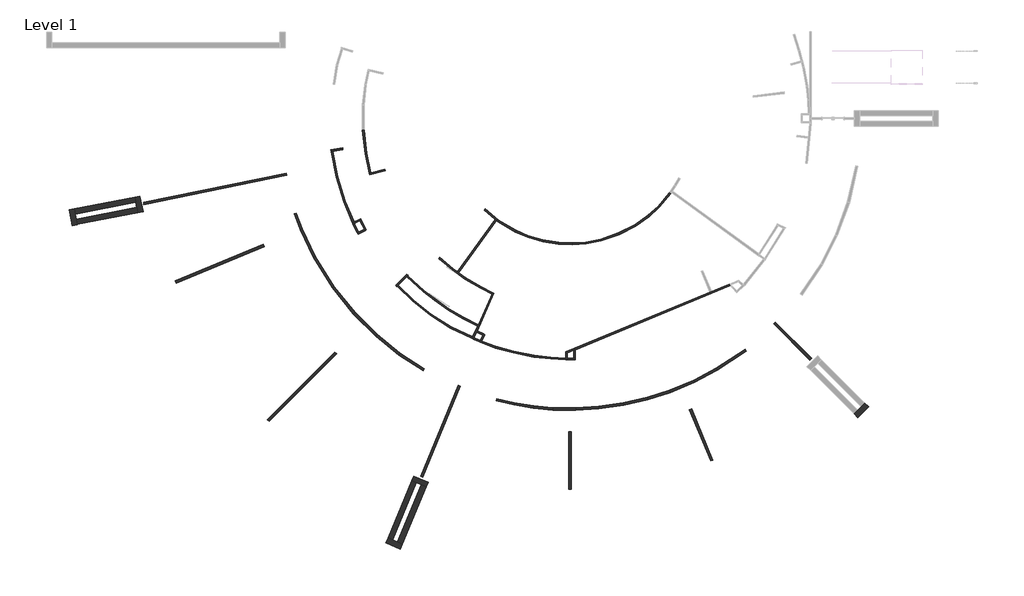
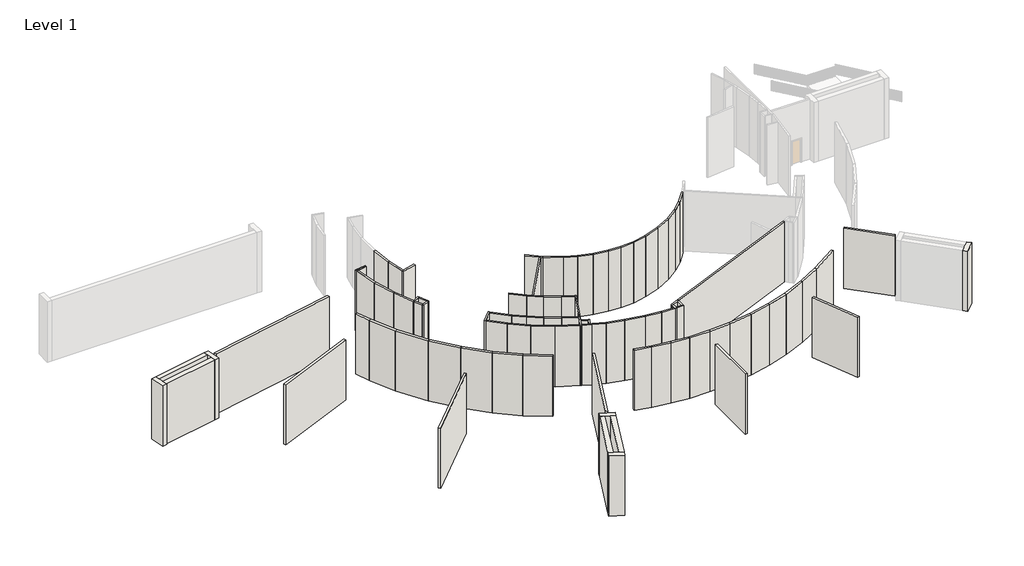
# One storey, part 1 of 10: 89 walls.
"""IFC4 building model written with IfcOpenShell, lengths in millimetres."""

from ifc_helpers import new_model, si_unit, frame, origin, origin_with_axes, place, context, project, spatial, polyline, outline, extrude, faceted_brep, element, save

model = new_model("IFC4")

# Units and contexts
model_context = context("Model", 3, world=origin())
ifc_project = project(units=[si_unit("LENGTHUNIT", "METRE", prefix="MILLI")], contexts=[model_context])

# Site, building, storey
site = spatial("IfcSite", under=ifc_project)
building = spatial("IfcBuilding", under=site)
storey = spatial("IfcBuildingStorey", under=building, Name="Level 1", Elevation=0.0)

# Walls
placement = place(None, origin())
element("IfcWall", 1, ObjectType="F1C", at=placement, inside=storey, context=model_context, shape_type="Brep", body=[
    faceted_brep([(16927.2755526, -15372.2410643, 0.0), (18231.6181951, -12442.6395235, 0.0), (18231.6181951, -12442.6395235, 5486.4), (16927.2755526, -15372.2410643, 5486.4), (17199.0159278, -14496.497038, 0.0), (17199.0159278, -14496.497038, 5486.4), (18084.8687609, -12506.8389985, 5486.4), (18135.3020428, -12393.5639927, 5486.4), (18135.3020428, -12393.5639927, 0.0), (18084.8687609, -12506.8389985, 0.0)], [[[0, 1, 2, 3]], [[4, 5, 6, 7, 8, 9]], [[1, 0, 4, 9, 8]], [[3, 2, 7, 6, 5]], [[2, 1, 8, 7]], [[0, 3, 5, 4]]]),
])
element("IfcWall", 2, ObjectType="F4A", at=placement, inside=storey, context=model_context, shape_type="Brep", body=[
    faceted_brep([(24452.123649, -16718.0880296, 0.0), (23802.0975002, -16986.9730223, 0.0), (23802.0975002, -16986.9730223, 5486.4), (24452.123649, -16718.0880296, 5486.4), (24499.4546309, -16832.5100939, 0.0), (24499.4546309, -16832.5100939, 5486.4), (24413.87664, -16867.9096505, 5486.4), (23925.9225002, -17069.7531386, 5486.4), (23802.0975002, -17120.9736692, 5486.4), (23802.0975002, -17120.9736692, 0.0), (23925.9225002, -17069.7531386, 0.0), (24413.87664, -16867.9096505, 0.0)], [[[0, 1, 2, 3]], [[4, 5, 6, 7, 8, 9, 10, 11]], [[1, 0, 4, 11, 10, 9]], [[3, 2, 8, 7, 6, 5]], [[0, 3, 5, 4]], [[2, 1, 9, 8]]]),
])
element("IfcWall", 3, ObjectType="F4A", at=placement, inside=storey, context=model_context, shape_type="Brep", body=[
    faceted_brep([(23802.0975002, -17120.9736692, 0.0), (23802.0975002, -17598.2755805, 0.0), (23802.0975002, -17598.2755805, 5486.4), (23802.0975002, -17120.9736692, 5486.4), (23925.9225002, -17069.7531386, 0.0), (23925.9225002, -17069.7531386, 5486.4), (23925.9225002, -17474.4505805, 5486.4), (23925.9225002, -17598.2755805, 5486.4), (23925.9225002, -17598.2755805, 0.0), (23925.9225002, -17474.4505805, 0.0)], [[[0, 1, 2, 3]], [[4, 5, 6, 7, 8, 9]], [[1, 0, 4, 9, 8]], [[3, 2, 7, 6, 5]], [[2, 1, 8, 7]], [[0, 3, 5, 4]]]),
])
element("IfcWall", 4, ObjectType="F4A", at=placement, inside=storey, context=model_context, shape_type="Brep", body=[
    faceted_brep([(23925.9225002, -17598.2755805, 0.0), (24537.70164, -17598.2755805, 0.0), (24537.70164, -17598.2755805, 5486.4), (23925.9225002, -17598.2755805, 5486.4), (23925.9225002, -17474.4505805, 0.0), (23925.9225002, -17474.4505805, 5486.4), (24413.87664, -17474.4505805, 5486.4), (24537.70164, -17474.4505805, 5486.4), (24537.70164, -17474.4505805, 0.0), (24413.87664, -17474.4505805, 0.0)], [[[0, 1, 2, 3]], [[4, 5, 6, 7, 8, 9]], [[1, 0, 4, 9, 8]], [[3, 2, 7, 6, 5]], [[2, 1, 8, 7]], [[0, 3, 5, 4]]]),
])
element("IfcWall", 5, ObjectType="F4A", at=placement, inside=storey, context=model_context, shape_type="SweptSolid", body=[
    extrude(outline(polyline([(24537.70164, -16825.278905), (24537.70164, -17474.4505805), (24413.87664, -17474.4505805), (24413.87664, -16867.9096505), (24499.4546309, -16832.5100939), (24502.4886682, -16839.8448416), (24537.70164, -16825.278905)])), origin_with_axes(), (0.0, 0.0, 1.0), 5486.4),
])
element("IfcWall", 6, ObjectType="F4A", at=placement, inside=storey, context=model_context, shape_type="Brep", body=[
    faceted_brep([(17300.0884445, -16144.1356241, 0.0), (17536.2164362, -15637.7575118, 0.0), (17536.2164362, -15637.7575118, 5486.4), (17300.0884445, -16144.1356241, 5486.4), (17187.1708594, -16093.2932558, 0.0), (17187.1708594, -16093.2932558, 5486.4), (17371.6621682, -15697.6503673, 5486.4), (17423.9928744, -15585.4268056, 5486.4), (17423.9928744, -15585.4268056, 0.0), (17371.6621682, -15697.6503673, 0.0)], [[[0, 1, 2, 3]], [[4, 5, 6, 7, 8, 9]], [[1, 0, 4, 9, 8]], [[3, 2, 7, 6, 5]], [[2, 1, 8, 7]], [[0, 3, 5, 4]]]),
])
element("IfcWall", 7, ObjectType="F4A", at=placement, inside=storey, context=model_context, shape_type="Brep", body=[
    faceted_brep([(17423.9928744, -15585.4268056, 0.0), (16934.3374673, -15357.0967393, 0.0), (16934.3374673, -15357.0967393, 5486.4), (17423.9928744, -15585.4268056, 5486.4), (17371.6621682, -15697.6503673, 0.0), (17371.6621682, -15697.6503673, 5486.4), (16882.006761, -15469.3203011, 5486.4), (16882.006761, -15469.3203011, 0.0), (16927.2755526, -15372.2410643, 0.0), (16927.2755526, -15372.2410643, 5486.4)], [[[0, 1, 2, 3]], [[4, 5, 6, 7]], [[1, 0, 4, 7, 8]], [[3, 2, 9, 6, 5]], [[0, 3, 5, 4]], [[2, 1, 8, 7, 6, 9]]]),
])
element("IfcWall", 8, ObjectType="F4A", at=placement, inside=storey, context=model_context, shape_type="Brep", body=[
    faceted_brep([(16638.7994449, -15990.8800736, 0.0), (16882.006761, -15469.3203011, 0.0), (16927.2755526, -15372.2410643, 0.0), (16927.2755526, -15372.2410643, 5486.4), (16882.006761, -15469.3203011, 5486.4), (16638.7994449, -15990.8800736, 5486.4), (16526.5758832, -15938.5493673, 0.0), (16526.5758832, -15938.5493673, 5486.4), (16578.9065894, -15826.3258056, 5486.4), (16969.5302787, -14988.6306007, 5486.4), (17021.8928828, -14876.3386337, 5486.4), (17199.0159278, -14496.497038, 5486.4), (17199.0159278, -14496.497038, 0.0), (17021.8928828, -14876.3386337, 0.0), (16969.5302787, -14988.6306007, 0.0), (16578.9065894, -15826.3258056, 0.0)], [[[0, 1, 2, 3, 4, 5]], [[6, 7, 8, 9, 10, 11, 12, 13, 14, 15]], [[2, 1, 0, 6, 15, 14, 13, 12]], [[5, 4, 3, 11, 10, 9, 8, 7]], [[3, 2, 12, 11]], [[0, 5, 7, 6]]]),
])
element("IfcWall", 9, ObjectType="F4A", at=placement, inside=storey, context=model_context, shape_type="Brep", body=[
    faceted_brep([(10711.8168607, -11924.8508159, 0.0), (10722.677141, -11913.9905356, 0.0), (10810.2479757, -11826.419701, 0.0), (11481.0232348, -11155.6444419, 0.0), (11568.652407, -11068.0152697, 0.0), (11573.9214484, -11062.7462283, 0.0), (11573.9214484, -11062.7462283, 5486.4), (11568.652407, -11068.0152697, 5486.4), (11481.0232348, -11155.6444419, 5486.4), (10810.2479757, -11826.419701, 5486.4), (10722.677141, -11913.9905356, 5486.4), (10711.8168607, -11924.8508159, 5486.4), (10624.2593635, -11837.2933188, 0.0), (10624.2593635, -11837.2933188, 5486.4), (11486.3639512, -10975.1887311, 5486.4), (11486.3639512, -10975.1887311, 0.0)], [[[0, 1, 2, 3, 4, 5, 6, 7, 8, 9, 10, 11]], [[12, 13, 14, 15]], [[5, 4, 3, 2, 1, 0, 12, 15]], [[6, 5, 15, 14]], [[11, 10, 9, 8, 7, 6, 14, 13]], [[0, 11, 13, 12]]]),
])
element("IfcWall", 10, ObjectType="F4A", at=placement, inside=storey, context=model_context, shape_type="Brep", body=[
    faceted_brep([(8589.2184097, -3275.6435957, 0.0), (9802.5094404, -2950.5432438, 0.0), (9802.5094404, -2950.5432438, 5486.4), (8589.2184097, -3275.6435957, 5486.4), (8565.1969494, -3153.8870535, 0.0), (8565.1969494, -3153.8870535, 5486.4), (8685.071754, -3121.7666964, 5486.4), (9770.4611722, -2830.9374784, 5486.4), (9770.4611722, -2830.9374784, 0.0), (8685.071754, -3121.7666964, 0.0)], [[[0, 1, 2, 3]], [[4, 5, 6, 7, 8, 9]], [[1, 0, 4, 9, 8]], [[2, 1, 8, 7]], [[3, 2, 7, 6, 5]], [[0, 3, 5, 4]]]),
])
element("IfcWall", 11, ObjectType="F4A", at=placement, inside=storey, context=model_context, shape_type="Brep", body=[
    faceted_brep([(7313.1138799, -7088.8523209, 0.0), (7416.5265717, -7036.1609227, 0.0), (7849.355266, -6815.6236877, 0.0), (7959.6841488, -6759.408314, 0.0), (7959.6841488, -6759.408314, 5486.4), (7849.355266, -6815.6236877, 5486.4), (7416.5265717, -7036.1609227, 5486.4), (7313.1138799, -7088.8523209, 5486.4), (7264.6134534, -6974.5924762, 0.0), (7264.6134534, -6974.5924762, 5486.4), (7389.3910167, -6911.0151322, 5486.4), (7903.4687752, -6649.0794312, 5486.4), (7903.4687752, -6649.0794312, 0.0), (7389.3910167, -6911.0151322, 0.0)], [[[0, 1, 2, 3, 4, 5, 6, 7]], [[8, 9, 10, 11, 12, 13]], [[3, 2, 1, 0, 8, 13, 12]], [[7, 6, 5, 4, 11, 10, 9]], [[4, 3, 12, 11]], [[0, 7, 9, 8]]]),
])
element("IfcWall", 12, ObjectType="F4A", at=placement, inside=storey, context=model_context, shape_type="Brep", body=[
    faceted_brep([(7849.355266, -6815.6236877, 0.0), (8187.2698018, -7478.8183056, 0.0), (8243.4851754, -7589.1471885, 0.0), (8243.4851754, -7589.1471885, 5486.4), (8187.2698018, -7478.8183056, 5486.4), (7849.355266, -6815.6236877, 5486.4), (7959.6841488, -6759.408314, 0.0), (7959.6841488, -6759.408314, 5486.4), (8353.8140583, -7532.9318148, 5486.4), (8353.8140583, -7532.9318148, 0.0)], [[[0, 1, 2, 3, 4, 5]], [[6, 7, 8, 9]], [[2, 1, 0, 6, 9]], [[5, 4, 3, 8, 7]], [[3, 2, 9, 8]], [[0, 5, 7, 6]]]),
])
element("IfcWall", 13, ObjectType="F4A", at=placement, inside=storey, context=model_context, shape_type="Brep", body=[
    faceted_brep([(8187.2698018, -7478.8183056, 0.0), (7754.4411075, -7699.3555406, 0.0), (7644.1122246, -7755.5709143, 0.0), (7644.1122246, -7755.5709143, 5486.4), (7754.4411075, -7699.3555406, 5486.4), (8187.2698018, -7478.8183056, 5486.4), (8243.4851754, -7589.1471885, 0.0), (8243.4851754, -7589.1471885, 5486.4), (7700.3275982, -7865.8997971, 5486.4), (7700.3275982, -7865.8997971, 0.0)], [[[0, 1, 2, 3, 4, 5]], [[6, 7, 8, 9]], [[2, 1, 0, 6, 9]], [[5, 4, 3, 8, 7]], [[3, 2, 9, 8]], [[0, 5, 7, 6]]]),
])
element("IfcWall", 14, ObjectType="F4A", at=placement, inside=storey, context=model_context, shape_type="Brep", body=[
    faceted_brep([(7754.4411075, -7699.3555406, 0.0), (7416.5265717, -7036.1609227, 0.0), (7416.5265717, -7036.1609227, 5486.4), (7754.4411075, -7699.3555406, 5486.4), (7644.1122246, -7755.5709143, 0.0), (7644.1122246, -7755.5709143, 5486.4), (7306.1976888, -7092.3762963, 5486.4), (7306.1976888, -7092.3762963, 0.0), (7313.1138799, -7088.8523209, 0.0), (7313.1138799, -7088.8523209, 5486.4)], [[[0, 1, 2, 3]], [[4, 5, 6, 7]], [[1, 0, 4, 7, 8]], [[3, 2, 9, 6, 5]], [[0, 3, 5, 4]], [[2, 1, 8, 7, 6, 9]]]),
])
element("IfcWall", 15, ObjectType="F4A", at=placement, inside=storey, context=model_context, shape_type="SweptSolid", body=[
    extrude(outline(polyline([(11923.6893551, -13073.7945491), (10722.677141, -11913.9905356), (10810.2479757, -11826.419701), (12005.0373489, -12980.214387), (11923.6893551, -13073.7945491)])), origin_with_axes(), (0.0, 0.0, 1.0), 5486.4),
])
element("IfcWall", 16, ObjectType="F4A", at=placement, inside=storey, context=model_context, shape_type="SweptSolid", body=[
    extrude(outline(polyline([(13309.4439754, -14156.4647158), (11923.6893551, -13073.7945491), (12005.0373489, -12980.214387), (13381.4180222, -14055.5608236), (13309.4439754, -14156.4647158)])), origin_with_axes(), (0.0, 0.0, 1.0), 5486.4),
])
element("IfcWall", 17, ObjectType="F4A", at=placement, inside=storey, context=model_context, shape_type="SweptSolid", body=[
    extrude(outline(polyline([(14849.1026624, -15156.3307581), (13309.4439754, -14156.4647158), (13381.4180222, -14055.5608236), (14909.2808045, -15047.7665158), (14849.1026624, -15156.3307581)])), origin_with_axes(), (0.0, 0.0, 1.0), 5486.4),
])
element("IfcWall", 18, ObjectType="F4A", at=placement, inside=storey, context=model_context, shape_type="SweptSolid", body=[
    extrude(outline(polyline([(16526.5758832, -15938.5493673), (14849.1026624, -15156.3307581), (14909.2808045, -15047.7665158), (16578.9065894, -15826.3258056), (16526.5758832, -15938.5493673)])), origin_with_axes(), (0.0, 0.0, 1.0), 5486.4),
])
element("IfcWall", 19, ObjectType="F4A", at=placement, inside=storey, context=model_context, shape_type="SweptSolid", body=[
    extrude(outline(polyline([(17259.9015023, -11947.5251388), (18135.3020428, -12393.5639927), (18084.8687609, -12506.8389985), (17200.7970652, -12056.3819703), (17259.9015023, -11947.5251388)])), origin_with_axes(), (0.0, 0.0, 1.0), 5486.4),
])
element("IfcWall", 20, ObjectType="F4A", at=placement, inside=storey, context=model_context, shape_type="SweptSolid", body=[
    extrude(outline(polyline([(16054.2780343, -11251.4581051), (17259.9015023, -11947.5251388), (17200.7970652, -12056.3819703), (15986.7455549, -11355.4490041), (16054.2780343, -11251.4581051)])), origin_with_axes(), (0.0, 0.0, 1.0), 5486.4),
])
element("IfcWall", 21, ObjectType="F4A", at=placement, inside=storey, context=model_context, shape_type="Brep", body=[
    faceted_brep([(16054.2780343, -11251.4581051, 0.0), (15493.1095771, -10843.7453555, 0.0), (15380.089903, -10761.6317558, 0.0), (15072.2986503, -10538.0083209, 0.0), (15072.2986503, -10538.0083209, 5486.4), (15380.089903, -10761.6317558, 5486.4), (15493.1095771, -10843.7453555, 5486.4), (16054.2780343, -11251.4581051, 5486.4), (15986.7455549, -11355.4490041, 0.0), (15986.7455549, -11355.4490041, 5486.4), (14996.0178999, -10635.643229, 5486.4), (14996.0178999, -10635.643229, 0.0)], [[[0, 1, 2, 3, 4, 5, 6, 7]], [[8, 9, 10, 11]], [[3, 2, 1, 0, 8, 11]], [[7, 6, 5, 4, 10, 9]], [[4, 3, 11, 10]], [[0, 7, 9, 8]]]),
])
element("IfcWall", 22, ObjectType="F4A", at=placement, inside=storey, context=model_context, shape_type="SweptSolid", body=[
    extrude(outline(polyline([(14023.2483048, -9657.7505629), (15072.2986503, -10538.0083209), (14996.0178999, -10635.643229), (13943.655129, -9752.6060161), (14023.2483048, -9657.7505629)])), origin_with_axes(), (0.0, 0.0, 1.0), 5486.4),
])
element("IfcWall", 23, ObjectType="F4A", at=placement, inside=storey, context=model_context, shape_type="SweptSolid", body=[
    extrude(outline(polyline([(8565.1969494, -3153.8870535), (8262.4192499, -1619.2107568), (8384.7731293, -1599.6559797), (8685.071754, -3121.7666964), (8565.1969494, -3153.8870535)])), origin_with_axes(), (0.0, 0.0, 1.0), 5486.4),
])
element("IfcWall", 24, ObjectType="F4A", at=placement, inside=storey, context=model_context, shape_type="SweptSolid", body=[
    extrude(outline(polyline([(8165.7295157, 184.3110924), (8384.7731293, -1599.6559797), (8262.4192499, -1619.2107568), (8041.9045157, 176.7376309), (8165.7295157, 184.3110924)])), origin_with_axes(), (0.0, 0.0, 1.0), 5486.4),
])
element("IfcWall", 25, ObjectType="F4A", at=placement, inside=storey, context=model_context, shape_type="SweptSolid", body=[
    extrude(outline(polyline([(12746.6272578, -12322.7931605), (11481.0232348, -11155.6444419), (11568.652407, -11068.0152697), (12826.8509065, -12228.3345637), (12746.6272578, -12322.7931605)])), origin_with_axes(), (0.0, 0.0, 1.0), 5486.4),
])
element("IfcWall", 26, ObjectType="F4A", at=placement, inside=storey, context=model_context, shape_type="SweptSolid", body=[
    extrude(outline(polyline([(13590.5493643, -12982.1373722), (12746.6272578, -12322.7931605), (12826.8509065, -12228.3345637), (13664.2285439, -12882.5656757), (13590.5493643, -12982.1373722)])), origin_with_axes(), (0.0, 0.0, 1.0), 5486.4),
])
element("IfcWall", 27, ObjectType="F4A", at=placement, inside=storey, context=model_context, shape_type="SweptSolid", body=[
    extrude(outline(polyline([(14676.0277206, -13742.1974999), (13590.5493643, -12982.1373722), (13664.2285439, -12882.5656757), (14742.6222278, -13637.6650624), (14676.0277206, -13742.1974999)])), origin_with_axes(), (0.0, 0.0, 1.0), 5486.4),
])
element("IfcWall", 28, ObjectType="F4A", at=placement, inside=storey, context=model_context, shape_type="SweptSolid", body=[
    extrude(outline(polyline([(15823.6191089, -14404.7596969), (14676.0277206, -13742.1974999), (14742.6222278, -13637.6650624), (15882.7235461, -14295.9028654), (15823.6191089, -14404.7596969)])), origin_with_axes(), (0.0, 0.0, 1.0), 5486.4),
])
element("IfcWall", 29, ObjectType="F4A", at=placement, inside=storey, context=model_context, shape_type="SweptSolid", body=[
    extrude(outline(polyline([(16969.5302787, -14988.6306007), (15823.6191089, -14404.7596969), (15882.7235461, -14295.9028654), (17021.8928828, -14876.3386337), (16969.5302787, -14988.6306007)])), origin_with_axes(), (0.0, 0.0, 1.0), 5486.4),
])
element("IfcWall", 30, ObjectType="N11A", at=placement, inside=storey, context=model_context, shape_type="SweptSolid", body=[
    extrude(outline(polyline([(5651.3350057, -1311.8536512), (6506.5305099, -1191.6637612), (6523.7636191, -1314.2837048), (5668.568115, -1434.4735948), (5651.3350057, -1311.8536512)])), frame((0.0, 0.0, -3657.6), z_axis=(0.0, 0.0, 1.0), x_axis=(1.0, 0.0, 0.0)), (0.0, 0.0, 1.0), 9144.0),
])
element("IfcWall", 31, ObjectType="N11C2", at=placement, inside=storey, context=model_context, shape_type="SweptSolid", body=[
    extrude(outline(polyline([(18433.0610216, -6797.2493403), (15493.1095771, -10843.7453555), (15380.089903, -10761.6317558), (18324.3447389, -6709.2126305), (18433.0610216, -6797.2493403)])), origin_with_axes(), (0.0, 0.0, 1.0), 5486.4),
])
element("IfcWall", 32, ObjectType="N11C2", at=placement, inside=storey, context=model_context, shape_type="Brep", body=[
    faceted_brep([(6504.2201171, -1183.9837024, 0.0), (5579.6105273, -1330.4274748, 0.0), (5579.6105273, -1330.4274748, 5486.4), (6504.2201171, -1183.9837024, 5486.4), (6526.0740119, -1321.9637636, 0.0), (6526.0740119, -1321.9637636, 5486.4), (5744.7482999, -1445.7135992, 5486.4), (5606.6700753, -1467.5830415, 5486.4), (5606.6700753, -1467.5830415, 0.0), (5744.7482999, -1445.7135992, 0.0)], [[[0, 1, 2, 3]], [[4, 5, 6, 7, 8, 9]], [[1, 0, 4, 9, 8]], [[3, 2, 7, 6, 5]], [[0, 3, 5, 4]], [[2, 1, 8, 7]]]),
])
element("IfcWall", 33, ObjectType="N11C2", at=placement, inside=storey, context=model_context, shape_type="SweptSolid", body=[
    extrude(outline(polyline([(30944.4380771, -5679.5907755), (31805.0512356, -4653.951952), (31915.2034396, -4740.0122857), (31045.1752378, -5776.8715209), (30944.4380771, -5679.5907755)])), origin_with_axes(), (0.0, 0.0, 1.0), 5486.4),
])
element("IfcWall", 34, ObjectType="N11C2", at=placement, inside=storey, context=model_context, shape_type="SweptSolid", body=[
    extrude(outline(polyline([(30158.0014027, -6387.7015377), (30944.4380771, -5679.5907755), (31045.1752378, -5776.8715209), (30246.0381126, -6496.4178204), (30158.0014027, -6387.7015377)])), origin_with_axes(), (0.0, 0.0, 1.0), 5486.4),
])
element("IfcWall", 35, ObjectType="N11C2", at=placement, inside=storey, context=model_context, shape_type="SweptSolid", body=[
    extrude(outline(polyline([(29137.9587955, -7128.8058722), (30158.0014027, -6387.7015377), (30246.0381126, -6496.4178204), (29211.177554, -7248.2880268), (29137.9587955, -7128.8058722)])), origin_with_axes(), (0.0, 0.0, 1.0), 5486.4),
])
element("IfcWall", 36, ObjectType="N11C2", at=placement, inside=storey, context=model_context, shape_type="SweptSolid", body=[
    extrude(outline(polyline([(27879.8412798, -7769.8487649), (29137.9587955, -7128.8058722), (29211.177554, -7248.2880268), (27934.5597098, -7898.7573077), (27879.8412798, -7769.8487649)])), origin_with_axes(), (0.0, 0.0, 1.0), 5486.4),
])
element("IfcWall", 37, ObjectType="N11C2", at=placement, inside=storey, context=model_context, shape_type="SweptSolid", body=[
    extrude(outline(polyline([(26519.5772184, -8238.2252426), (27879.8412798, -7769.8487649), (27934.5597098, -7898.7573077), (26556.9801836, -8373.095978), (26519.5772184, -8238.2252426)])), origin_with_axes(), (0.0, 0.0, 1.0), 5486.4),
])
element("IfcWall", 38, ObjectType="N11C2", at=placement, inside=storey, context=model_context, shape_type="SweptSolid", body=[
    extrude(outline(polyline([(25361.4206484, -8484.399021), (26519.5772184, -8238.2252426), (26556.9801836, -8373.095978), (25379.7115421, -8623.3321526), (25361.4206484, -8484.399021)])), origin_with_axes(), (0.0, 0.0, 1.0), 5486.4),
])
element("IfcWall", 39, ObjectType="N11C2", at=placement, inside=storey, context=model_context, shape_type="SweptSolid", body=[
    extrude(outline(polyline([(24279.8629174, -8541.0810599), (25361.4206484, -8484.399021), (25379.7115421, -8623.3321526), (24279.8629174, -8680.9727766), (24279.8629174, -8541.0810599)])), origin_with_axes(), (0.0, 0.0, 1.0), 5486.4),
])
element("IfcWall", 40, ObjectType="N11C2", at=placement, inside=storey, context=model_context, shape_type="SweptSolid", body=[
    extrude(outline(polyline([(23247.201453, -8486.9615658), (24279.8629174, -8541.0810599), (24279.8629174, -8680.9727766), (23232.5787868, -8626.086941), (23247.201453, -8486.9615658)])), origin_with_axes(), (0.0, 0.0, 1.0), 5486.4),
])
element("IfcWall", 41, ObjectType="N11C2", at=placement, inside=storey, context=model_context, shape_type="SweptSolid", body=[
    extrude(outline(polyline([(22025.7597696, -8293.5042083), (23247.201453, -8486.9615658), (23232.5787868, -8626.086941), (21995.4666528, -8430.1476281), (22025.7597696, -8293.5042083)])), origin_with_axes(), (0.0, 0.0, 1.0), 5486.4),
])
element("IfcWall", 42, ObjectType="N11C2", at=placement, inside=storey, context=model_context, shape_type="SweptSolid", body=[
    extrude(outline(polyline([(20886.4189788, -7966.8034938), (22025.7597696, -8293.5042083), (21995.4666528, -8430.1476281), (20839.6990184, -8098.7365919), (20886.4189788, -7966.8034938)])), origin_with_axes(), (0.0, 0.0, 1.0), 5486.4),
])
element("IfcWall", 43, ObjectType="N11C2", at=placement, inside=storey, context=model_context, shape_type="SweptSolid", body=[
    extrude(outline(polyline([(19959.6147395, -7573.3984346), (20886.4189788, -7966.8034938), (20839.6990184, -8098.7365919), (19896.0373955, -7698.1759979), (19959.6147395, -7573.3984346)])), origin_with_axes(), (0.0, 0.0, 1.0), 5486.4),
])
element("IfcWall", 44, ObjectType="N11C2", at=placement, inside=storey, context=model_context, shape_type="SweptSolid", body=[
    extrude(outline(polyline([(18618.1211494, -6767.3477657), (19959.6147395, -7573.3984346), (19896.0373955, -7698.1759979), (18537.7968553, -6882.0627462), (18618.1211494, -6767.3477657)])), origin_with_axes(), (0.0, 0.0, 1.0), 5486.4),
])
element("IfcWall", 45, ObjectType="N11C2", at=placement, inside=storey, context=model_context, shape_type="Brep", body=[
    faceted_brep([(18618.1211494, -6767.3477657, 0.0), (17555.9836309, -5907.2457621, 0.0), (17555.9836309, -5907.2457621, 5486.4), (18618.1211494, -6767.3477657, 5486.4), (18537.7968553, -6882.0627462, 0.0), (18537.7968553, -6882.0627462, 5486.4), (18433.0610216, -6797.2493403, 5486.4), (18324.3447389, -6709.2126305, 5486.4), (17468.0675723, -6015.813053, 5486.4), (17468.0675723, -6015.813053, 0.0), (18324.3447389, -6709.2126305, 0.0), (18433.0610216, -6797.2493403, 0.0)], [[[0, 1, 2, 3]], [[4, 5, 6, 7, 8, 9, 10, 11]], [[1, 0, 4, 11, 10, 9]], [[2, 1, 9, 8]], [[3, 2, 8, 7, 6, 5]], [[0, 3, 5, 4]]]),
])
element("IfcWall", 46, ObjectType="N11C2", at=placement, inside=storey, context=model_context, shape_type="SweptSolid", body=[
    extrude(outline(polyline([(7264.6134534, -6974.5924762), (6582.1582366, -5366.8287392), (6713.6134505, -5318.9829542), (7389.3910167, -6911.0151322), (7264.6134534, -6974.5924762)])), origin_with_axes(), (0.0, 0.0, 1.0), 5486.4),
])
element("IfcWall", 47, ObjectType="N11C2", at=placement, inside=storey, context=model_context, shape_type="SweptSolid", body=[
    extrude(outline(polyline([(6136.4784903, -3431.2595584), (6713.6134505, -5318.9829542), (6582.1582366, -5366.8287392), (6000.799554, -3465.2901699), (6136.4784903, -3431.2595584)])), origin_with_axes(), (0.0, 0.0, 1.0), 5486.4),
])
element("IfcWall", 48, ObjectType="N11C2", at=placement, inside=storey, context=model_context, shape_type="SweptSolid", body=[
    extrude(outline(polyline([(5744.7482999, -1445.7135992), (6136.4784903, -3431.2595584), (6000.799554, -3465.2901699), (5606.6700753, -1467.5830415), (5744.7482999, -1445.7135992)])), origin_with_axes(), (0.0, 0.0, 1.0), 5486.4),
])
element("IfcWall", 49, ObjectType="N13C2", at=placement, inside=storey, context=model_context, shape_type="SweptSolid", body=[
    extrude(outline(polyline([(2166.3560112, -3314.1854301), (-8883.9294393, -5569.8467372), (-8920.7599289, -5389.4174227), (2129.5255216, -3133.7561156), (2166.3560112, -3314.1854301)])), origin_with_axes(), (0.0, 0.0, 1.0), 5486.4),
])
element("IfcWall", 50, ObjectType="N13C2", at=placement, inside=storey, context=model_context, shape_type="SweptSolid", body=[
    extrude(outline(polyline([(441.2360796, -8820.1397652), (-6387.4344413, -11648.6677076), (-6457.9055954, -11478.5352917), (370.7649256, -8650.0073493), (441.2360796, -8820.1397652)])), origin_with_axes(), (0.0, 0.0, 1.0), 5486.4),
])
element("IfcWall", 51, ObjectType="N13C2", at=placement, inside=storey, context=model_context, shape_type="SweptSolid", body=[
    extrude(outline(polyline([(6037.7103155, -17131.1904715), (811.2721665, -22357.6286204), (681.0584528, -22227.4149067), (5907.4966017, -17000.9767577), (6037.7103155, -17131.1904715)])), origin_with_axes(), (0.0, 0.0, 1.0), 5486.4),
])
element("IfcWall", 52, ObjectType="N13C2", at=placement, inside=storey, context=model_context, shape_type="SweptSolid", body=[
    extrude(outline(polyline([(15637.7138559, -19646.6736239), (12724.0179277, -26687.6093598), (12553.8619807, -26617.1950416), (15467.557909, -19576.2593056), (15637.7138559, -19646.6736239)])), origin_with_axes(), (0.0, 0.0, 1.0), 5486.4),
])
element("IfcWall", 53, ObjectType="N13C2", at=placement, inside=storey, context=model_context, shape_type="SweptSolid", body=[
    extrude(outline(polyline([(24222.7850578, -23161.2644936), (24222.7850578, -27613.8318895), (24038.6350578, -27613.8318895), (24038.6350578, -23161.2644936), (24222.7850578, -23161.2644936)])), origin_with_axes(), (0.0, 0.0, 1.0), 5486.4),
])
element("IfcWall", 54, ObjectType="N13C2", at=placement, inside=storey, context=model_context, shape_type="SweptSolid", body=[
    extrude(outline(polyline([(33548.3261278, -21403.3787647), (35188.8271739, -25363.9912241), (35018.6941755, -25434.460972), (33378.1931295, -21473.8485126), (33548.3261278, -21403.3787647)])), origin_with_axes(), (0.0, 0.0, 1.0), 5486.4),
])
element("IfcWall", 55, ObjectType="N13C2", at=placement, inside=storey, context=model_context, shape_type="SweptSolid", body=[
    extrude(outline(polyline([(40037.0484475, -14683.9822218), (42838.8883573, -17485.8221316), (42708.6746436, -17616.0358453), (39906.8347338, -14814.1959356), (40037.0484475, -14683.9822218)])), origin_with_axes(), (0.0, 0.0, 1.0), 5486.4),
])
element("IfcWall", 56, ObjectType="N13C2", at=placement, inside=storey, context=model_context, shape_type="SweptSolid", body=[
    extrude(outline(polyline([(19759.4617891, -21089.2018624), (18395.1338875, -20774.2219476), (18436.5586241, -20594.7917002), (19794.6206835, -20908.3250313), (19759.4617891, -21089.2018624)])), origin_with_axes(), (0.0, 0.0, 1.0), 5486.4),
])
element("IfcWall", 57, ObjectType="N13C2", at=placement, inside=storey, context=model_context, shape_type="SweptSolid", body=[
    extrude(outline(polyline([(21295.3432323, -21332.4615851), (19759.4617891, -21089.2018624), (19794.6206835, -20908.3250313), (21319.3878701, -21149.8244287), (21295.3432323, -21332.4615851)])), origin_with_axes(), (0.0, 0.0, 1.0), 5486.4),
])
element("IfcWall", 58, ObjectType="N13C2", at=placement, inside=storey, context=model_context, shape_type="SweptSolid", body=[
    extrude(outline(polyline([(22781.6735788, -21488.6811996), (21295.3432323, -21332.4615851), (21319.3878701, -21149.8244287), (22791.3244713, -21304.5311996), (22781.6735788, -21488.6811996)])), origin_with_axes(), (0.0, 0.0, 1.0), 5486.4),
])
element("IfcWall", 59, ObjectType="N13C2", at=placement, inside=storey, context=model_context, shape_type="SweptSolid", body=[
    extrude(outline(polyline([(24566.9100938, -21488.6811996), (22781.6735788, -21488.6811996), (22791.3244713, -21304.5311996), (24562.0879563, -21304.5311996), (24566.9100938, -21488.6811996)])), origin_with_axes(), (0.0, 0.0, 1.0), 5486.4),
])
element("IfcWall", 60, ObjectType="N13C2", at=placement, inside=storey, context=model_context, shape_type="SweptSolid", body=[
    extrude(outline(polyline([(26357.5586102, -21394.8372873), (24566.9100938, -21488.6811996), (24562.0879563, -21304.5311996), (26339.8918, -21211.3604481), (26357.5586102, -21394.8372873)])), origin_with_axes(), (0.0, 0.0, 1.0), 5486.4),
])
element("IfcWall", 61, ObjectType="N13C2", at=placement, inside=storey, context=model_context, shape_type="SweptSolid", body=[
    extrude(outline(polyline([(28302.2868153, -21121.5235621), (26357.5586102, -21394.8372873), (26339.8918, -21211.3604481), (28268.6961725, -20940.2846716), (28302.2868153, -21121.5235621)])), origin_with_axes(), (0.0, 0.0, 1.0), 5486.4),
])
element("IfcWall", 62, ObjectType="N13C2", at=placement, inside=storey, context=model_context, shape_type="SweptSolid", body=[
    extrude(outline(polyline([(30163.9532082, -20691.7240095), (28302.2868153, -21121.5235621), (28268.6961725, -20940.2846716), (30114.6943777, -20514.1024052), (30163.9532082, -20691.7240095)])), origin_with_axes(), (0.0, 0.0, 1.0), 5486.4),
])
element("IfcWall", 63, ObjectType="N13C2", at=placement, inside=storey, context=model_context, shape_type="SweptSolid", body=[
    extrude(outline(polyline([(31886.3520686, -20132.082695), (30163.9532082, -20691.7240095), (30114.6943777, -20514.1024052), (31822.5661603, -19959.1812244), (31886.3520686, -20132.082695)])), origin_with_axes(), (0.0, 0.0, 1.0), 5486.4),
])
element("IfcWall", 64, ObjectType="N13C2", at=placement, inside=storey, context=model_context, shape_type="SweptSolid", body=[
    extrude(outline(polyline([(33794.576635, -19341.6886765), (31886.3520686, -20132.082695), (31822.5661603, -19959.1812244), (33715.9341085, -19174.9408748), (33794.576635, -19341.6886765)])), origin_with_axes(), (0.0, 0.0, 1.0), 5486.4),
])
element("IfcWall", 65, ObjectType="N13C2", at=placement, inside=storey, context=model_context, shape_type="SweptSolid", body=[
    extrude(outline(polyline([(35528.9003891, -18419.5323789), (33794.576635, -19341.6886765), (33715.9341085, -19174.9408748), (35435.3481586, -18260.7122074), (35528.9003891, -18419.5323789)])), origin_with_axes(), (0.0, 0.0, 1.0), 5486.4),
])
element("IfcWall", 66, ObjectType="N13C2", at=placement, inside=storey, context=model_context, shape_type="SweptSolid", body=[
    extrude(outline(polyline([(37790.3085502, -16950.9567479), (35528.9003891, -18419.5323789), (35435.3481586, -18260.7122074), (37690.0132719, -16796.5155628), (37790.3085502, -16950.9567479)])), origin_with_axes(), (0.0, 0.0, 1.0), 5486.4),
])
element("IfcWall", 67, ObjectType="N13C2", at=placement, inside=storey, context=model_context, shape_type="SweptSolid", body=[
    extrude(outline(polyline([(2927.7046321, -6223.3106912), (3390.7822028, -7429.6690067), (3221.1679096, -7501.6660026), (2755.7857966, -6289.3041491), (2927.7046321, -6223.3106912)])), origin_with_axes(), (0.0, 0.0, 1.0), 5486.4),
])
element("IfcWall", 68, ObjectType="N13C2", at=placement, inside=storey, context=model_context, shape_type="SweptSolid", body=[
    extrude(outline(polyline([(4223.2156197, -9650.5642517), (3221.1679096, -7501.6660026), (3390.7822028, -7429.6690067), (4385.3522084, -9562.5312667), (4223.2156197, -9650.5642517)])), origin_with_axes(), (0.0, 0.0, 1.0), 5486.4),
])
element("IfcWall", 69, ObjectType="N13C2", at=placement, inside=storey, context=model_context, shape_type="SweptSolid", body=[
    extrude(outline(polyline([(5709.7785758, -12029.5622799), (4223.2156197, -9650.5642517), (4385.3522084, -9562.5312667), (5859.9781009, -11922.4259999), (5709.7785758, -12029.5622799)])), origin_with_axes(), (0.0, 0.0, 1.0), 5486.4),
])
element("IfcWall", 70, ObjectType="N13C2", at=placement, inside=storey, context=model_context, shape_type="SweptSolid", body=[
    extrude(outline(polyline([(7346.8026448, -14051.1186479), (5709.7785758, -12029.5622799), (5859.9781009, -11922.4259999), (7483.8405701, -13927.7291457), (7346.8026448, -14051.1186479)])), origin_with_axes(), (0.0, 0.0, 1.0), 5486.4),
])
element("IfcWall", 71, ObjectType="N13C2", at=placement, inside=storey, context=model_context, shape_type="SweptSolid", body=[
    extrude(outline(polyline([(9059.8755194, -15764.1915225), (7346.8026448, -14051.1186479), (7483.8405701, -13927.7291457), (9183.2650216, -15627.1535972), (9059.8755194, -15764.1915225)])), origin_with_axes(), (0.0, 0.0, 1.0), 5486.4),
])
element("IfcWall", 72, ObjectType="N13C2", at=placement, inside=storey, context=model_context, shape_type="SweptSolid", body=[
    extrude(outline(polyline([(10863.6708469, -17224.8761778), (9059.8755194, -15764.1915225), (9183.2650216, -15627.1535972), (10972.0600447, -17075.6912456), (10863.6708469, -17224.8761778)])), origin_with_axes(), (0.0, 0.0, 1.0), 5486.4),
])
element("IfcWall", 73, ObjectType="N13C2", at=placement, inside=storey, context=model_context, shape_type="SweptSolid", body=[
    extrude(outline(polyline([(12742.3142601, -18444.8814753), (10863.6708469, -17224.8761778), (10972.0600447, -17075.6912456), (12842.6095384, -18290.4402902), (12742.3142601, -18444.8814753)])), origin_with_axes(), (0.0, 0.0, 1.0), 5486.4),
])
element("IfcWall", 74, ObjectType="N1C", at=placement, inside=storey, context=model_context, shape_type="Brep", body=[
    faceted_brep([(36465.7279584, -11740.0398438, 0.0), (35089.1590192, -12309.4611351, 0.0), (34960.0674596, -12362.8601916, 0.0), (24449.0896117, -16710.7532819, 0.0), (24449.0896117, -16710.7532819, 5486.4), (34960.0674596, -12362.8601916, 5486.4), (35089.1590192, -12309.4611351, 5486.4), (36465.7279584, -11740.0398438, 5486.4), (36520.31541, -11868.6398208, 0.0), (36520.31541, -11868.6398208, 5486.4), (24537.70164, -16825.278905, 5486.4), (24502.4886682, -16839.8448416, 5486.4), (24502.4886682, -16839.8448416, 0.0), (24537.70164, -16825.278905, 0.0), (24499.4546309, -16832.5100939, 0.0), (24452.123649, -16718.0880296, 0.0), (24499.4546309, -16832.5100939, 5486.4), (24452.123649, -16718.0880296, 5486.4)], [[[0, 1, 2, 3, 4, 5, 6, 7]], [[8, 9, 10, 11, 12, 13]], [[3, 2, 1, 0, 8, 13, 12, 14, 15]], [[4, 3, 15, 14, 12, 11, 16, 17]], [[7, 6, 5, 4, 17, 16, 11, 10, 9]], [[0, 7, 9, 8]]]),
])
element("IfcWall", 75, ObjectType="N1C", at=placement, inside=storey, context=model_context, shape_type="SweptSolid", body=[
    extrude(outline(polyline([(23797.5530818, -17606.0650945), (22638.1623378, -17530.4753619), (22650.0127179, -17391.2513803), (23806.6419186, -17466.6610664), (23797.5530818, -17606.0650945)])), origin_with_axes(), (0.0, 0.0, 1.0), 5486.4),
])
element("IfcWall", 76, ObjectType="N1C", at=placement, inside=storey, context=model_context, shape_type="SweptSolid", body=[
    extrude(outline(polyline([(21341.4649514, -17253.717468), (22650.0127179, -17391.2513803), (22638.1623378, -17530.4753619), (21319.5810655, -17391.8868856), (21341.4649514, -17253.717468)])), origin_with_axes(), (0.0, 0.0, 1.0), 5486.4),
])
element("IfcWall", 77, ObjectType="N1C", at=placement, inside=storey, context=model_context, shape_type="SweptSolid", body=[
    extrude(outline(polyline([(19756.758017, -16916.8776108), (21341.4649514, -17253.717468), (21319.5810655, -17391.8868856), (19724.1345204, -17052.7642536), (19756.758017, -16916.8776108)])), origin_with_axes(), (0.0, 0.0, 1.0), 5486.4),
])
element("IfcWall", 78, ObjectType="N1C", at=placement, inside=storey, context=model_context, shape_type="SweptSolid", body=[
    extrude(outline(polyline([(18387.5446581, -16549.997997), (19756.758017, -16916.8776108), (19724.1345204, -17052.7642536), (18345.4820887, -16683.3554479), (18387.5446581, -16549.997997)])), origin_with_axes(), (0.0, 0.0, 1.0), 5486.4),
])
element("IfcWall", 79, ObjectType="N1C", at=placement, inside=storey, context=model_context, shape_type="SweptSolid", body=[
    extrude(outline(polyline([(17414.0426794, -16195.4447552), (18387.5446581, -16549.997997), (18345.4820887, -16683.3554479), (17361.3895832, -16324.9450946), (17414.0426794, -16195.4447552)])), origin_with_axes(), (0.0, 0.0, 1.0), 5486.4),
])
element("IfcWall", 80, ObjectType="N1C", at=placement, inside=storey, context=model_context, shape_type="Brep", body=[
    faceted_brep([(17414.0426794, -16195.4447552, 0.0), (17300.0884445, -16144.1356241, 0.0), (17187.1708594, -16093.2932558, 0.0), (16693.6425864, -15871.0767944, 0.0), (16693.6425864, -15871.0767944, 5486.4), (17187.1708594, -16093.2932558, 5486.4), (17300.0884445, -16144.1356241, 5486.4), (17414.0426794, -16195.4447552, 5486.4), (17361.3895832, -16324.9450946, 0.0), (17361.3895832, -16324.9450946, 5486.4), (16636.2870097, -15998.459791, 5486.4), (16636.2870097, -15998.459791, 0.0)], [[[0, 1, 2, 3, 4, 5, 6, 7]], [[8, 9, 10, 11]], [[3, 2, 1, 0, 8, 11]], [[4, 3, 11, 10]], [[7, 6, 5, 4, 10, 9]], [[0, 7, 9, 8]]]),
])
element("IfcWall", 81, ObjectType="N9A", at=placement, inside=storey, context=model_context, shape_type="Brep", body=[
    faceted_brep([(9867.0387321, -31755.2568845, 0.0), (10971.4970386, -32270.2742509, 0.0), (10971.4970386, -32270.2742509, 5486.4), (9867.0387321, -31755.2568845, 5486.4), (10022.5861701, -31379.3770598, 0.0), (10022.5861701, -31379.3770598, 5486.4), (10391.2659487, -31551.2952639, 5486.4), (10758.364698, -31722.476222, 5486.4), (11127.0444766, -31894.3944262, 5486.4), (11127.0444766, -31894.3944262, 0.0), (10758.364698, -31722.476222, 0.0), (10391.2659487, -31551.2952639, 0.0)], [[[0, 1, 2, 3]], [[4, 5, 6, 7, 8, 9, 10, 11]], [[1, 0, 4, 11, 10, 9]], [[3, 2, 8, 7, 6, 5]], [[2, 1, 9, 8]], [[0, 3, 5, 4]]]),
])
element("IfcWall", 82, ObjectType="N9A", at=placement, inside=storey, context=model_context, shape_type="SweptSolid", body=[
    extrude(outline(polyline([(12969.9771049, -27440.9543553), (11127.0444766, -31894.3944262), (10758.364698, -31722.476222), (12594.4605323, -27285.5572391), (12969.9771049, -27440.9543553)])), origin_with_axes(), (0.0, 0.0, 1.0), 5486.4),
])
element("IfcWall", 83, ObjectType="N9A", at=placement, inside=storey, context=model_context, shape_type="Brep", body=[
    faceted_brep([(11845.0377351, -26975.4294046, 0.0), (12220.5543077, -27130.8265207, 0.0), (12594.4605323, -27285.5572391, 0.0), (12969.9771049, -27440.9543553, 0.0), (12969.9771049, -27440.9543553, 5486.4), (12594.4605323, -27285.5572391, 5486.4), (12220.5543077, -27130.8265207, 5486.4), (11845.0377351, -26975.4294046, 5486.4), (12000.4348513, -26599.912832, 0.0), (12000.4348513, -26599.912832, 5486.4), (13125.3742211, -27065.4377827, 5486.4), (13125.3742211, -27065.4377827, 0.0)], [[[0, 1, 2, 3, 4, 5, 6, 7]], [[8, 9, 10, 11]], [[3, 2, 1, 0, 8, 11]], [[7, 6, 5, 4, 10, 9]], [[4, 3, 11, 10]], [[0, 7, 9, 8]]]),
])
element("IfcWall", 84, ObjectType="N9A", at=placement, inside=storey, context=model_context, shape_type="SweptSolid", body=[
    extrude(outline(polyline([(10022.5861701, -31379.3770598), (11845.0377351, -26975.4294046), (12220.5543077, -27130.8265207), (10391.2659487, -31551.2952639), (10022.5861701, -31379.3770598)])), origin_with_axes(), (0.0, 0.0, 1.0), 5486.4),
])
element("IfcWall", 85, ObjectType="N9A", at=placement, inside=storey, context=model_context, shape_type="Brep", body=[
    faceted_brep([(46979.8743213, -20960.0933582, 0.0), (46692.5061255, -21247.4615541, 0.0), (46437.6661264, -21502.3015532, 0.0), (46150.2979305, -21789.6697491, 0.0), (46150.2979305, -21789.6697491, 5486.4), (46437.6661264, -21502.3015532, 5486.4), (46692.5061255, -21247.4615541, 5486.4), (46979.8743213, -20960.0933582, 5486.4), (47267.2425172, -21247.4615541, 0.0), (47267.2425172, -21247.4615541, 5486.4), (46437.6661264, -22077.0379449, 5486.4), (46437.6661264, -22077.0379449, 0.0)], [[[0, 1, 2, 3, 4, 5, 6, 7]], [[8, 9, 10, 11]], [[3, 2, 1, 0, 8, 11]], [[7, 6, 5, 4, 10, 9]], [[0, 7, 9, 8]], [[4, 3, 11, 10]]]),
])
element("IfcWall", 86, ObjectType="N9A", at=placement, inside=storey, context=model_context, shape_type="Brep", body=[
    faceted_brep([(-14042.3588801, -7123.6138916, 0.0), (-14046.08227, -7104.4587112, 0.0), (-14123.6270457, -6705.5254239, 0.0), (-14202.29498, -6300.8139864, 0.0), (-14279.8397558, -5901.880699, 0.0), (-14279.8397558, -5901.880699, 5486.4), (-14202.29498, -6300.8139864, 5486.4), (-14123.6270457, -6705.5254239, 5486.4), (-14046.08227, -7104.4587112, 5486.4), (-14042.3588801, -7123.6138916, 5486.4), (-14441.2921675, -7201.1586673, 0.0), (-14441.2921675, -7201.1586673, 5486.4), (-14678.7730431, -5979.4254748, 5486.4), (-14678.7730431, -5979.4254748, 0.0)], [[[0, 1, 2, 3, 4, 5, 6, 7, 8, 9]], [[10, 11, 12, 13]], [[4, 3, 2, 1, 0, 10, 13]], [[9, 8, 7, 6, 5, 12, 11]], [[0, 9, 11, 10]], [[5, 4, 13, 12]]]),
])
element("IfcWall", 87, ObjectType="N9A", at=placement, inside=storey, context=model_context, shape_type="SweptSolid", body=[
    extrude(outline(polyline([(-9514.8288536, -5389.6628717), (-14202.29498, -6300.8139864), (-14279.8397558, -5901.880699), (-9592.3736294, -4990.7295843), (-9514.8288536, -5389.6628717)])), origin_with_axes(), (0.0, 0.0, 1.0), 5486.4),
])
element("IfcWall", 88, ObjectType="N9A", at=placement, inside=storey, context=model_context, shape_type="Brep", body=[
    faceted_brep([(-9592.3736294, -4990.7295843, 0.0), (-9514.8288536, -5389.6628717, 0.0), (-9436.1609193, -5794.3743092, 0.0), (-9358.6161436, -6193.3075965, 0.0), (-9358.6161436, -6193.3075965, 5486.4), (-9436.1609193, -5794.3743092, 5486.4), (-9514.8288536, -5389.6628717, 5486.4), (-9592.3736294, -4990.7295843, 5486.4), (-9193.440342, -4913.1848086, 0.0), (-9193.440342, -4913.1848086, 5486.4), (-8959.6828562, -6115.7628208, 5486.4), (-8959.6828562, -6115.7628208, 0.0)], [[[0, 1, 2, 3, 4, 5, 6, 7]], [[8, 9, 10, 11]], [[3, 2, 1, 0, 8, 11]], [[7, 6, 5, 4, 10, 9]], [[0, 7, 9, 8]], [[4, 3, 11, 10]]]),
])
element("IfcWall", 89, ObjectType="N9A", at=placement, inside=storey, context=model_context, shape_type="SweptSolid", body=[
    extrude(outline(polyline([(-14123.6270457, -6705.5254239), (-9436.1609193, -5794.3743092), (-9358.6161436, -6193.3075965), (-14046.08227, -7104.4587112), (-14123.6270457, -6705.5254239)])), origin_with_axes(), (0.0, 0.0, 1.0), 5486.4),
])

save(model, "model.ifc")
